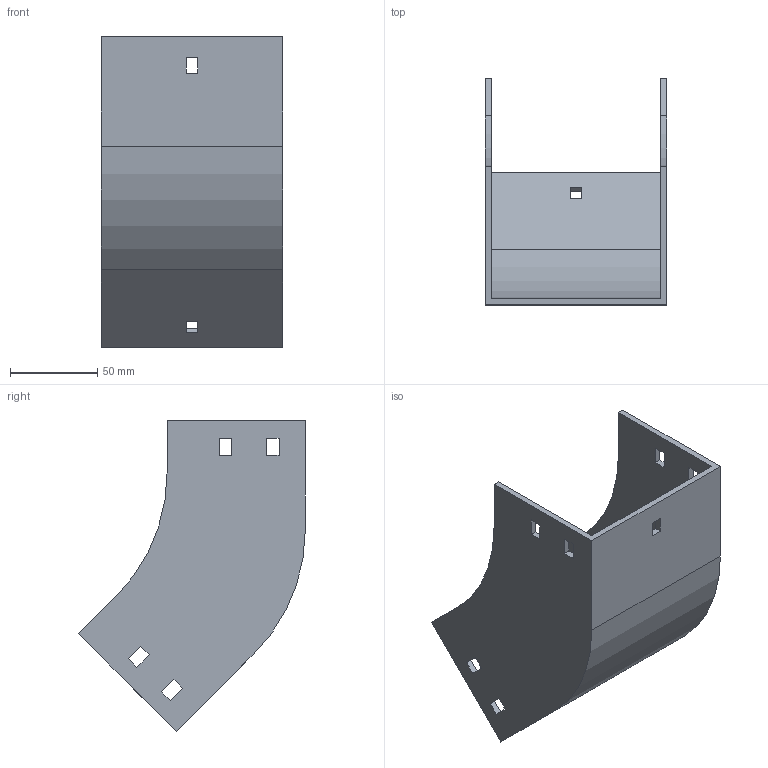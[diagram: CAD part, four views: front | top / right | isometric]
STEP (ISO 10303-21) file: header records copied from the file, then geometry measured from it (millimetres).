
FILE_DESCRIPTION (( 'STEP AP214' ), '1' );
FILE_NAME ('31F1C100.step', '2025-02-21T13:00:33', ( '' ), ( '' ), 'SwSTEP 2.0', 'SolidWorks 2023', '' );
FILE_SCHEMA (( 'AUTOMOTIVE_DESIGN' ));
Length unit declared in the file: millimetre
Products named in the file (1): 31F1C100
Bounding box: 104 x 129.5 x 177.79 mm (x, y, z)
Volume: 163504.7 mm3; surface area: 97364.7 mm2
Topology: 1 solids, 1 shells, 58 faces, 168 edges, 112 vertices
Faces by surface type: plane 54, cylinder 4
Entity records: 1943 total; most frequent: CARTESIAN_POINT 339, ORIENTED_EDGE 336, DIRECTION 294, EDGE_CURVE 168, VECTOR 160, LINE 160, VERTEX_POINT 112, EDGE_LOOP 78
